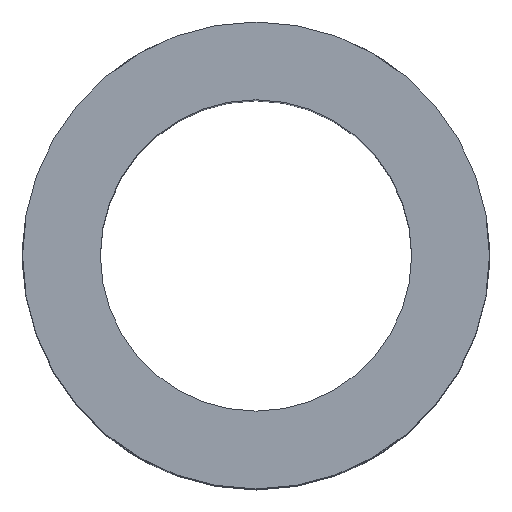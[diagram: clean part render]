
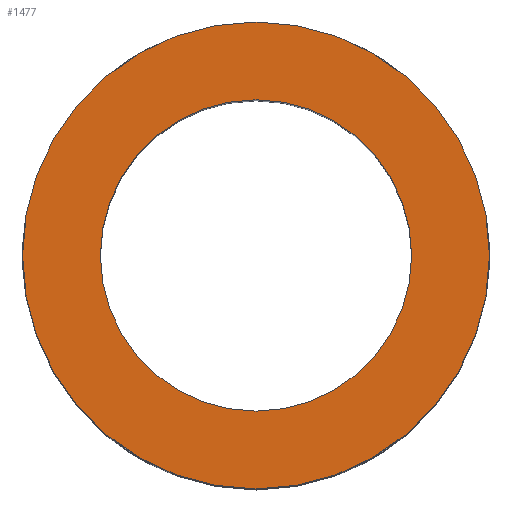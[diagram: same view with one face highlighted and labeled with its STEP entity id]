
A CAD part, top view. The second image highlights one B-rep face of the part: STEP entity #1477.
In plain terms, the highlighted planar face has unit normal (0, 0, 1).
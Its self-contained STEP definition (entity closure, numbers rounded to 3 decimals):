
#51=CARTESIAN_POINT('',(-38.1,0.,101.));
#52=VERTEX_POINT('',#51);
#68=CARTESIAN_POINT('',(38.1,0.,101.));
#69=VERTEX_POINT('',#68);
#76=CARTESIAN_POINT('',(0.0,0.0,101.));
#77=DIRECTION('',(0.0,0.0,-1.0));
#78=DIRECTION('',(-1.0,0.0,0.0));
#79=AXIS2_PLACEMENT_3D('',#76,#77,#78);
#80=CIRCLE('',#79,38.1);
#81=EDGE_CURVE('',#69,#52,#80,.T.);
#91=CARTESIAN_POINT('',(-25.4,0.,101.));
#92=VERTEX_POINT('',#91);
#101=CARTESIAN_POINT('',(25.4,0.,101.));
#102=VERTEX_POINT('',#101);
#103=CARTESIAN_POINT('',(0.0,0.0,101.));
#104=DIRECTION('',(0.0,0.0,-1.0));
#105=DIRECTION('',(-1.0,0.0,0.0));
#106=AXIS2_PLACEMENT_3D('',#103,#104,#105);
#107=CIRCLE('',#106,25.4);
#108=EDGE_CURVE('',#102,#92,#107,.T.);
#1436=CARTESIAN_POINT('',(0.0,0.0,101.));
#1437=DIRECTION('',(0.0,0.0,-1.0));
#1438=DIRECTION('',(-1.0,0.0,0.0));
#1439=AXIS2_PLACEMENT_3D('',#1436,#1437,#1438);
#1440=CIRCLE('',#1439,25.4);
#1441=EDGE_CURVE('',#92,#102,#1440,.T.);
#1452=CARTESIAN_POINT('',(0.0,0.0,101.));
#1453=DIRECTION('',(0.0,0.0,-1.0));
#1454=DIRECTION('',(-1.0,0.0,0.0));
#1455=AXIS2_PLACEMENT_3D('',#1452,#1453,#1454);
#1456=CIRCLE('',#1455,38.1);
#1457=EDGE_CURVE('',#52,#69,#1456,.T.);
#1464=CARTESIAN_POINT('',(0.0,0.0,101.));
#1465=DIRECTION('',(0.0,0.0,-1.0));
#1466=DIRECTION('',(-1.0,0.0,0.0));
#1467=AXIS2_PLACEMENT_3D('',#1464,#1465,#1466);
#1468=PLANE('',#1467);
#1469=ORIENTED_EDGE('',*,*,#81,.F.);
#1470=ORIENTED_EDGE('',*,*,#1457,.F.);
#1471=EDGE_LOOP('',(#1469,#1470));
#1472=FACE_OUTER_BOUND('',#1471,.T.);
#1473=ORIENTED_EDGE('',*,*,#108,.T.);
#1474=ORIENTED_EDGE('',*,*,#1441,.T.);
#1475=EDGE_LOOP('',(#1473,#1474));
#1476=FACE_BOUND('',#1475,.T.);
#1477=ADVANCED_FACE('',(#1472,#1476),#1468,.F.);
